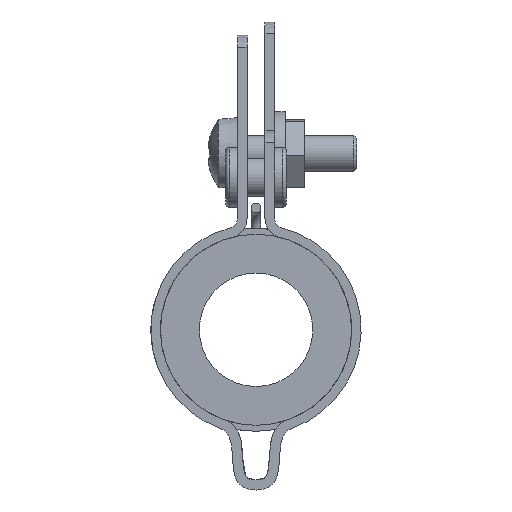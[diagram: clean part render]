
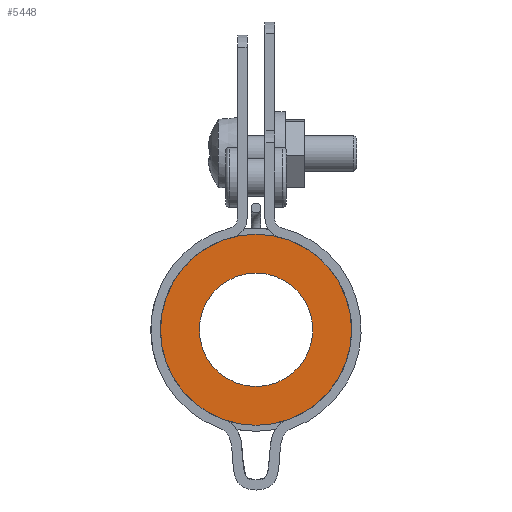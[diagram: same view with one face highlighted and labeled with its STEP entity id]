
A CAD part, front view. The second image highlights one B-rep face of the part: STEP entity #5448.
In plain terms, the highlighted planar face has unit normal (0, -1, 0).
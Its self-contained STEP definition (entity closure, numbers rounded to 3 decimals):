
#967=FACE_BOUND($,#1645,.T.);
#968=FACE_BOUND($,#1646,.T.);
#1645=EDGE_LOOP($,(#4466));
#1646=EDGE_LOOP($,(#4467));
#1934=CIRCLE($,#5909,8.);
#1971=CIRCLE($,#5992,4.75);
#2402=VERTEX_POINT($,#9201);
#2447=VERTEX_POINT($,#9357);
#3098=EDGE_CURVE($,#2402,#2402,#1934,.T.);
#3143=EDGE_CURVE($,#2447,#2447,#1971,.T.);
#4466=ORIENTED_EDGE($,*,*,#3143,.T.);
#4467=ORIENTED_EDGE($,*,*,#3098,.T.);
#4894=PLANE($,#5994);
#5448=ADVANCED_FACE($,(#967,#968),#4894,.T.);
#5909=AXIS2_PLACEMENT_3D($,#9202,#7206,#7207);
#5992=AXIS2_PLACEMENT_3D($,#9358,#7376,#7377);
#5994=AXIS2_PLACEMENT_3D($,#9360,#7380,#7381);
#7206=DIRECTION('center_axis',(0.,-1.,0.));
#7207=DIRECTION('ref_axis',(1.,0.,0.));
#7376=DIRECTION('center_axis',(0.,1.,0.));
#7377=DIRECTION('ref_axis',(1.,0.,0.));
#7380=DIRECTION('center_axis',(0.,-1.,0.));
#7381=DIRECTION('ref_axis',(0.,0.,-1.));
#9201=CARTESIAN_POINT('',(13.645,46.577,19.693));
#9202=CARTESIAN_POINT('Origin',(21.645,46.577,19.693));
#9357=CARTESIAN_POINT('',(16.895,46.577,19.693));
#9358=CARTESIAN_POINT('Origin',(21.645,46.577,19.693));
#9360=CARTESIAN_POINT('Origin',(21.645,46.577,19.693));
